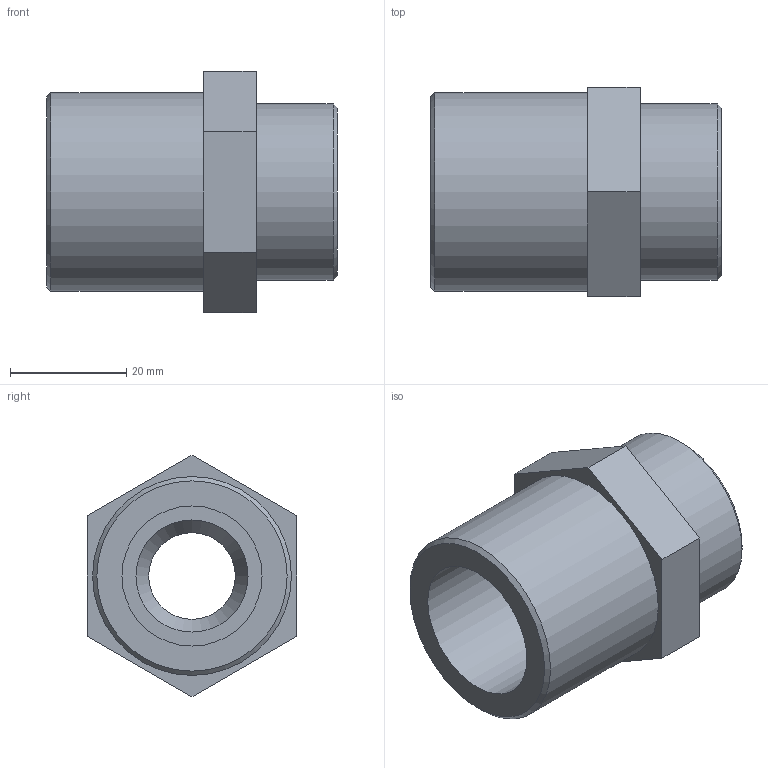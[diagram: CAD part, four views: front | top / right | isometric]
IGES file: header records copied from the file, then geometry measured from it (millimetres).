
Global section: file name: 051107007005_0511070070050A.ipt; native system: Autodesk Inventor 2015; preprocessor: unknown; author: KIM; date: 20180617.111938; units: millimetre
Bounding box: 50 x 36 x 41.57 mm (x, y, z)
Volume: 27889.3 mm3; surface area: 10325.4 mm2
Topology: 1 solids, 1 shells, 21 faces, 49 edges, 34 vertices
Faces by surface type: plane 12, revolution 5, cone 2, cylinder 2
Full cylindrical faces by diameter (mm): 30.297 x1, 34.2 x1
